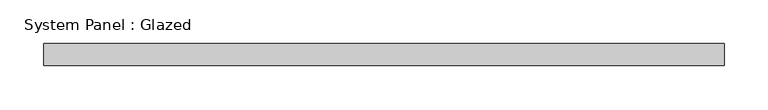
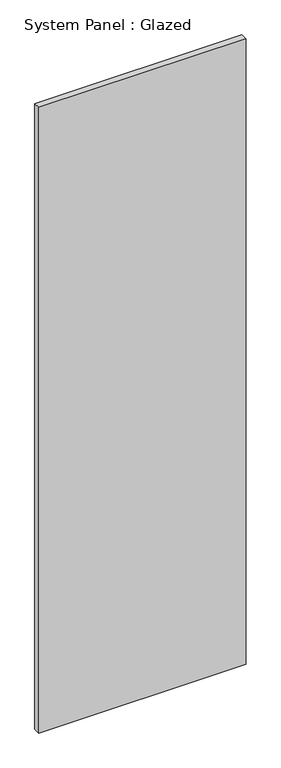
"""IFC4 building model written with IfcOpenShell, lengths in millimetres: plate geometry, System Panel : Glazed."""

import ifcopenshell
import ifcopenshell.guid

model = None  # the IFC model being written
_history = None  # IfcOwnerHistory: only IFC2X3 demands one
_inside = {}  # id of a spatial element -> (the spatial element, [elements in it])
_under = {}  # id of a project, library or spatial element -> (it, [spatial elements below it])
_declared = {}  # id of a project -> (the project, [libraries it declares])
_typed = {}  # id of a type object -> (the type object, [elements of that type])
_made_of = {}  # id of a material, layer set ... -> (it, [elements and type objects made of it])


def new_model(schema):
    """Start an empty IFC model of exactly this schema.

    Asked for "IFC4X3", IfcOpenShell would pick the latest addendum, in which some entities
    have other attributes; the version numbers below select the first issue.
    IFC2X3 requires an IfcOwnerHistory on every rooted entity: one is made here for all.
    """
    global model, _history
    if schema == "IFC4X3":
        model = ifcopenshell.file(schema_version=(4, 3, 0, 0))
    else:
        model = ifcopenshell.file(schema=schema)
    _inside.clear()
    _under.clear()
    _declared.clear()
    _typed.clear()
    _made_of.clear()
    _history = None
    if model.schema == "IFC2X3":
        org = make("IfcOrganization", Name="unknown")
        user = make(
            "IfcPersonAndOrganization",
            ThePerson=make("IfcPerson", FamilyName="unknown"),
            TheOrganization=org,
        )
        app = make(
            "IfcApplication",
            ApplicationDeveloper=org,
            Version="unknown",
            ApplicationFullName="unknown",
            ApplicationIdentifier="unknown",
        )
        _history = make(
            "IfcOwnerHistory",
            OwningUser=user,
            OwningApplication=app,
            ChangeAction="ADDED",
            CreationDate=0,
        )
    return model


def make(cls, **values):
    """One entity of the class cls with the attributes given. An attribute that is None is left unset."""
    return model.create_entity(
        cls, **{name: value for name, value in values.items() if value is not None}
    )


def rooted(cls, **values):
    """An entity with a GlobalId (a new one), such as an element, a storey or a relation."""
    return make(cls, GlobalId=ifcopenshell.guid.new(), OwnerHistory=_history, **values)


def si_unit(unit_type, name, prefix=None):
    """IfcSIUnit, for example si_unit("LENGTHUNIT", "METRE", prefix="MILLI")."""
    return make("IfcSIUnit", UnitType=unit_type, Prefix=prefix, Name=name)


def assignment(units):
    """IfcUnitAssignment: the units of a project."""
    return None if units is None else make("IfcUnitAssignment", Units=units)


def point(xyz):
    """IfcCartesianPoint."""
    return None if xyz is None else make("IfcCartesianPoint", Coordinates=xyz)


def direction(xyz):
    """IfcDirection."""
    return None if xyz is None else make("IfcDirection", DirectionRatios=xyz)


def frame(location, z_axis=None, x_axis=None):
    """IfcAxis2Placement3D, a coordinate frame: its origin and axes. An axis left out is left unset."""
    return make(
        "IfcAxis2Placement3D",
        Location=point(location),
        Axis=direction(z_axis),
        RefDirection=direction(x_axis),
    )


def origin():
    """The frame at (0, 0, 0) with its axes left unset."""
    return frame((0.0, 0.0, 0.0))


def origin_with_axes():
    """The frame at (0, 0, 0) with the z axis (0, 0, 1) and the x axis (1, 0, 0) written out."""
    return frame((0.0, 0.0, 0.0), z_axis=(0.0, 0.0, 1.0), x_axis=(1.0, 0.0, 0.0))


def place(relative_to, where):
    """IfcLocalPlacement: puts the frame where relative to a parent placement (None: the world)."""
    return make(
        "IfcLocalPlacement", PlacementRelTo=relative_to, RelativePlacement=where
    )


def context(
    kind, dimensions, precision=None, world=None, true_north=None, identifier=None
):
    """IfcGeometricRepresentationContext, for example the 3D "Model" context."""
    return make(
        "IfcGeometricRepresentationContext",
        ContextIdentifier=identifier,
        ContextType=kind,
        CoordinateSpaceDimension=dimensions,
        Precision=precision,
        WorldCoordinateSystem=world,
        TrueNorth=true_north,
    )


def project(units=None, contexts=None):
    """IfcProject with its units and contexts."""
    return rooted(
        "IfcProject",
        Name="project",
        RepresentationContexts=contexts,
        UnitsInContext=assignment(units),
    )


def spatial(cls, under=None, at=None, **own):
    """A site, building, storey or space (cls), placed at a placement, below another one or the project."""
    s = rooted(cls, ObjectPlacement=at, **own)
    if under is not None:
        _under.setdefault(under.id(), (under, []))[1].append(s)
    return s


def polyline(points):
    """IfcPolyline through the points."""
    return make("IfcPolyline", Points=[point(p) for p in points])


def outline(outer, holes=None, kind="AREA"):
    """IfcArbitraryClosedProfileDef: a profile drawn as a closed curve; with holes, ...WithVoids."""
    if holes is None:
        return make("IfcArbitraryClosedProfileDef", ProfileType=kind, OuterCurve=outer)
    return make(
        "IfcArbitraryProfileDefWithVoids",
        ProfileType=kind,
        OuterCurve=outer,
        InnerCurves=holes,
    )


def extrude(swept, where, along, depth):
    """IfcExtrudedAreaSolid: the profile swept, set in the frame where, extruded along a direction by depth."""
    return make(
        "IfcExtrudedAreaSolid",
        SweptArea=swept,
        Position=where,
        ExtrudedDirection=direction(along),
        Depth=depth,
    )


def shape(context_of_items, identifier, shape_type, items):
    """IfcShapeRepresentation: the items that make up one representation, for example the "Body"."""
    return make(
        "IfcShapeRepresentation",
        ContextOfItems=context_of_items,
        RepresentationIdentifier=identifier,
        RepresentationType=shape_type,
        Items=items,
    )


def source(mapping_origin, context_of_items, identifier, shape_type, items):
    """IfcRepresentationMap: a shape defined once, which mapped items show again and again."""
    return make(
        "IfcRepresentationMap",
        MappingOrigin=mapping_origin,
        MappedRepresentation=shape(context_of_items, identifier, shape_type, items),
    )


def transform(
    local_origin,
    x_axis=None,
    y_axis=None,
    z_axis=None,
    scale=None,
    scale2=None,
    scale3=None,
    uniform=True,
):
    """IfcCartesianTransformationOperator3D, or its non-uniform kind. x_axis, y_axis, z_axis: its Axis1, 2, 3."""
    if uniform:
        return make(
            "IfcCartesianTransformationOperator3D",
            Axis1=direction(x_axis),
            Axis2=direction(y_axis),
            LocalOrigin=point(local_origin),
            Scale=scale,
            Axis3=direction(z_axis),
        )
    return make(
        "IfcCartesianTransformationOperator3DnonUniform",
        Axis1=direction(x_axis),
        Axis2=direction(y_axis),
        LocalOrigin=point(local_origin),
        Scale=scale,
        Axis3=direction(z_axis),
        Scale2=scale2,
        Scale3=scale3,
    )


def mapped(mapping_source, mapping_target):
    """IfcMappedItem: shows the shape of a source again, moved by a transform."""
    return make(
        "IfcMappedItem", MappingSource=mapping_source, MappingTarget=mapping_target
    )


def made_of(thing, what):
    """Note that an element or type object is made of a material, layer set ...; save() writes the relation."""
    if what is not None:
        _made_of.setdefault(what.id(), (what, []))[1].append(thing)
    return thing


def element(
    cls,
    number,
    at=None,
    inside=None,
    cuts=None,
    type_object=None,
    material=None,
    context=None,
    identifier="Body",
    shape_type=None,
    held_by="IfcProductDefinitionShape",
    body=None,
    shapes=None,
    **own,
):
    """One element of the class cls, such as IfcWall. Its Tag is "e" and its number.

    at: its placement. inside: the storey or other place that contains it. cuts: it is an
    opening in that element (IfcRelVoidsElement). A single representation is given by context,
    identifier, shape_type and body (its items); several are given by shapes. held_by: the class
    of the entity that holds the representations. save() writes the other relations.
    """
    e = rooted(cls, Tag="e%d" % number, ObjectPlacement=at, **own)
    if body is not None:
        shapes = [shape(context, identifier, shape_type, body)]
    if shapes is not None:
        e.Representation = make(held_by, Representations=shapes)
    if inside is not None:
        _inside.setdefault(inside.id(), (inside, []))[1].append(e)
    if cuts is not None:
        rooted(
            "IfcRelVoidsElement", RelatingBuildingElement=cuts, RelatedOpeningElement=e
        )
    if type_object is not None:
        _typed.setdefault(type_object.id(), (type_object, []))[1].append(e)
    return made_of(e, material)


def aggregate(whole, parts):
    """IfcRelAggregates: a whole, such as a stair, and the parts it consists of."""
    return rooted("IfcRelAggregates", RelatingObject=whole, RelatedObjects=parts)


def save(model, path):
    """Write the relations noted so far, then the file.

    IfcRelAggregates (storeys below a building ...), IfcRelContainedInSpatialStructure (elements
    in a storey), IfcRelDefinesByType, IfcRelAssociatesMaterial and IfcRelDeclares: one each for
    every whole, place, type object, material and project.
    """
    for whole, parts in _under.values():
        aggregate(whole, parts)
    for where, things in _inside.values():
        rooted(
            "IfcRelContainedInSpatialStructure",
            RelatedElements=things,
            RelatingStructure=where,
        )
    for kind, things in _typed.values():
        rooted("IfcRelDefinesByType", RelatedObjects=things, RelatingType=kind)
    for what, things in _made_of.values():
        rooted("IfcRelAssociatesMaterial", RelatedObjects=things, RelatingMaterial=what)
    for by, libraries in _declared.values():
        rooted("IfcRelDeclares", RelatingContext=by, RelatedDefinitions=libraries)
    model.write(path)


def system_panel_glazed_b40d16d2(model_context):
    return source(origin(), model_context, "Body", "SweptSolid", [
        extrude(outline(polyline([(387.4999998, 24.5), (-387.4999998, 24.5), (-387.4999998, 49.5), (387.4999998, 49.5), (387.4999998, 24.5)])), origin_with_axes(), (0.0, 0.0, 1.0), 2470.0),
    ])


if __name__ == "__main__":
    model = new_model("IFC4")
    model_context = context("Model", 3, world=origin())
    ifc_project = project(units=[si_unit("LENGTHUNIT", "METRE", prefix="MILLI")], contexts=[model_context])
    site = spatial("IfcSite", under=ifc_project)
    building = spatial("IfcBuilding", under=site)
    placement = place(None, origin())
    system_panel_glazed_shape = system_panel_glazed_b40d16d2(model_context)
    element("IfcPlate", 1, ObjectType="System Panel : Glazed", at=placement, inside=building, context=model_context, shape_type="MappedRepresentation", body=[
        mapped(system_panel_glazed_shape, transform((0.0, 0.0, 0.0), x_axis=(1.0, 0.0, 0.0), y_axis=(0.0, 1.0, 0.0), z_axis=(0.0, 0.0, 1.0))),
    ])
    save(model, "model.ifc")
